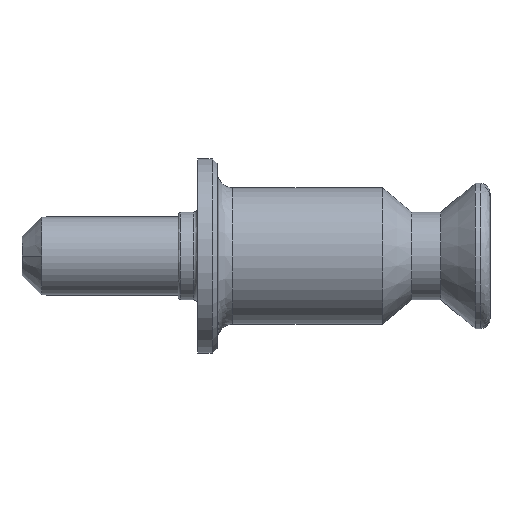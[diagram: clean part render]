
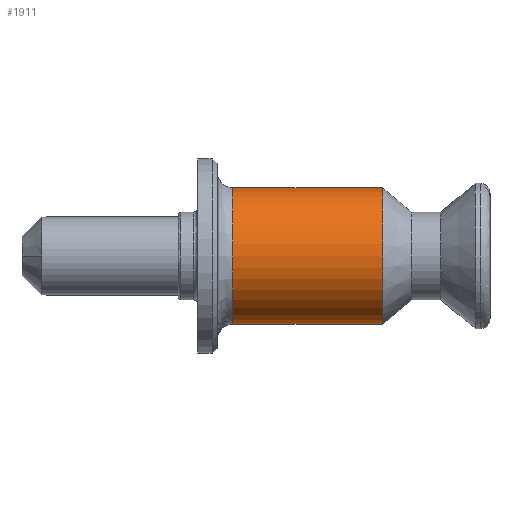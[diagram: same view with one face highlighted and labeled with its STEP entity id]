
A CAD part, left-side view. The second image highlights one B-rep face of the part: STEP entity #1911.
In plain terms, the highlighted cylindrical face has radius 3.5 mm (diameter 7 mm), a partial arc.
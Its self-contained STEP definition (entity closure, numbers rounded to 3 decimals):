
#14 = CARTESIAN_POINT ( 'NONE',  ( 0., 5.51, 0. ) ) ;
#26 = LINE ( 'NONE', #1707, #2406 ) ;
#60 = DIRECTION ( 'NONE',  ( 0., 0., -1. ) ) ;
#83 = CARTESIAN_POINT ( 'NONE',  ( 0., 5.51, -3.5 ) ) ;
#116 = DIRECTION ( 'NONE',  ( 0., -1., 0. ) ) ;
#122 = EDGE_CURVE ( 'NONE', #529, #138, #1520, .T. ) ;
#138 = VERTEX_POINT ( 'NONE', #247 ) ;
#228 = ORIENTED_EDGE ( 'NONE', *, *, #122, .T. ) ;
#243 = CARTESIAN_POINT ( 'NONE',  ( 0., 13.2, 3.5 ) ) ;
#247 = CARTESIAN_POINT ( 'NONE',  ( 0., 5.51, 3.5 ) ) ;
#402 = FACE_OUTER_BOUND ( 'NONE', #1364, .T. ) ;
#404 = DIRECTION ( 'NONE',  ( 0., 1., 0. ) ) ;
#419 = CIRCLE ( 'NONE', #2102, 3.5 ) ;
#491 = DIRECTION ( 'NONE',  ( 0., 0., -1. ) ) ;
#529 = VERTEX_POINT ( 'NONE', #83 ) ;
#611 = VERTEX_POINT ( 'NONE', #243 ) ;
#639 = CYLINDRICAL_SURFACE ( 'NONE', #2308, 3.5 ) ;
#713 = AXIS2_PLACEMENT_3D ( 'NONE', #14, #404, #820 ) ;
#820 = DIRECTION ( 'NONE',  ( 0., 0., -1. ) ) ;
#899 = DIRECTION ( 'NONE',  ( 0., -1., 0. ) ) ;
#902 = VERTEX_POINT ( 'NONE', #1130 ) ;
#1130 = CARTESIAN_POINT ( 'NONE',  ( 0., 13.2, -3.5 ) ) ;
#1338 = VECTOR ( 'NONE', #1938, 1000. ) ;
#1361 = ORIENTED_EDGE ( 'NONE', *, *, #2015, .F. ) ;
#1364 = EDGE_LOOP ( 'NONE', ( #1361, #1908, #1616, #228 ) ) ;
#1443 = CARTESIAN_POINT ( 'NONE',  ( 0., 0., 0. ) ) ;
#1520 = CIRCLE ( 'NONE', #713, 3.5 ) ;
#1616 = ORIENTED_EDGE ( 'NONE', *, *, #1644, .T. ) ;
#1635 = EDGE_CURVE ( 'NONE', #611, #902, #419, .T. ) ;
#1644 = EDGE_CURVE ( 'NONE', #902, #529, #2130, .T. ) ;
#1707 = CARTESIAN_POINT ( 'NONE',  ( 0., 0., 3.5 ) ) ;
#1885 = DIRECTION ( 'NONE',  ( 0., -1., 0. ) ) ;
#1908 = ORIENTED_EDGE ( 'NONE', *, *, #1635, .T. ) ;
#1911 = ADVANCED_FACE ( 'NONE', ( #402 ), #639, .T. ) ;
#1938 = DIRECTION ( 'NONE',  ( 0., -1., 0. ) ) ;
#2015 = EDGE_CURVE ( 'NONE', #611, #138, #26, .T. ) ;
#2102 = AXIS2_PLACEMENT_3D ( 'NONE', #2134, #1885, #491 ) ;
#2130 = LINE ( 'NONE', #2238, #1338 ) ;
#2134 = CARTESIAN_POINT ( 'NONE',  ( 0., 13.2, 0. ) ) ;
#2238 = CARTESIAN_POINT ( 'NONE',  ( 0., 0., -3.5 ) ) ;
#2308 = AXIS2_PLACEMENT_3D ( 'NONE', #1443, #116, #60 ) ;
#2406 = VECTOR ( 'NONE', #899, 1000. ) ;
